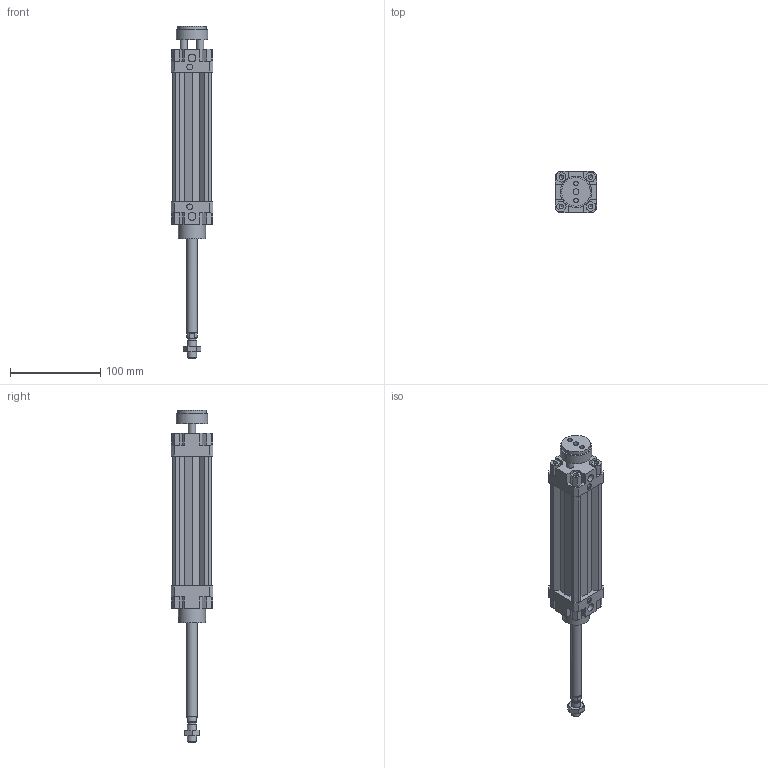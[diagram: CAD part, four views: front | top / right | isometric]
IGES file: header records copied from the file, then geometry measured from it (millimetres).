
Global section: file name: 132#_032_0100_02; native system: Autodesk Inventor 2014; preprocessor: unknown; author: A. Manieri; date: 20161006.154648; units: millimetre
Bounding box: 46 x 46 x 368 mm (x, y, z)
Volume: 269206.9 mm3; surface area: 91559 mm2
Topology: 3 solids, 3 shells, 227 faces, 605 edges, 405 vertices
Faces by surface type: bspline 227
